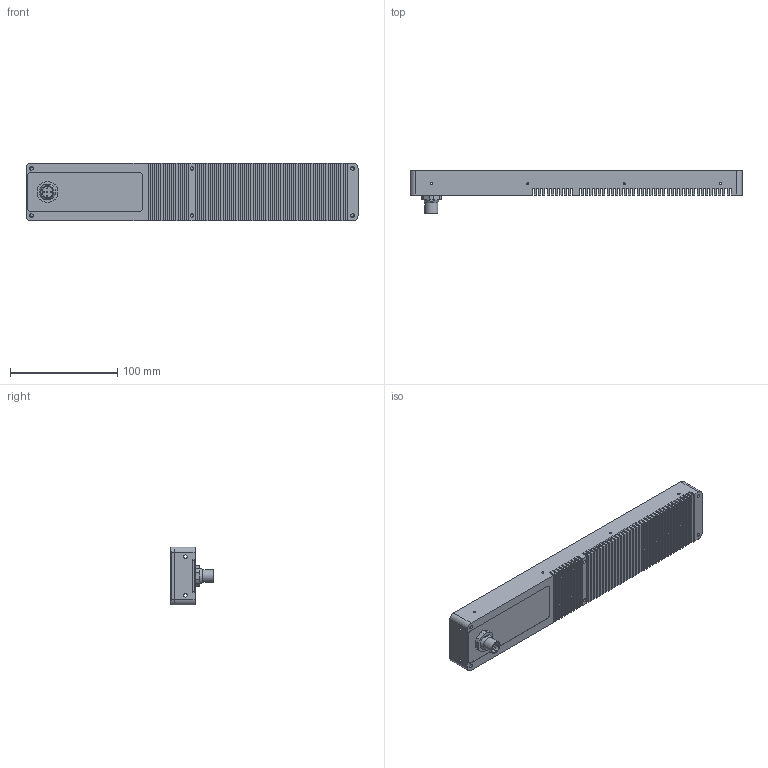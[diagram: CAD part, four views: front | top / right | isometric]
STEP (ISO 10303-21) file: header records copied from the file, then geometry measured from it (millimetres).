
FILE_DESCRIPTION (( 'STEP AP214' ), '1' );
FILE_NAME ('01974.00 Basisbaugruppe WBL-0430 (power version) StEp17082020.STEP', '2020-08-17T11:57:16', ( '' ), ( '' ), 'SwSTEP 2.0', 'SolidWorks 2013', '' );
FILE_SCHEMA (( 'AUTOMOTIVE_DESIGN' ));
Length unit declared in the file: millimetre
Products named in the file (1): 01974.00 Basisbaugruppe WBL-0430 (power version) StEp17082020
Bounding box: 310 x 40.3 x 54 mm (x, y, z)
Surface area: 86359.8 mm2 (no closed solid volume)
Topology: 0 solids, 10 shells, 264 faces, 787 edges, 535 vertices
Faces by surface type: plane 220, cylinder 43, cone 1
Full cylindrical faces by diameter (mm): 1 x5, 2.05 x8, 3.3 x10, 10 x1, 12 x1
Entity records: 11594 total; most frequent: CARTESIAN_POINT 1593, ORIENTED_EDGE 1432, DIRECTION 1394, EDGE_CURVE 760, LINE 652, VECTOR 652, VERTEX_POINT 534, AXIS2_PLACEMENT_3D 371
